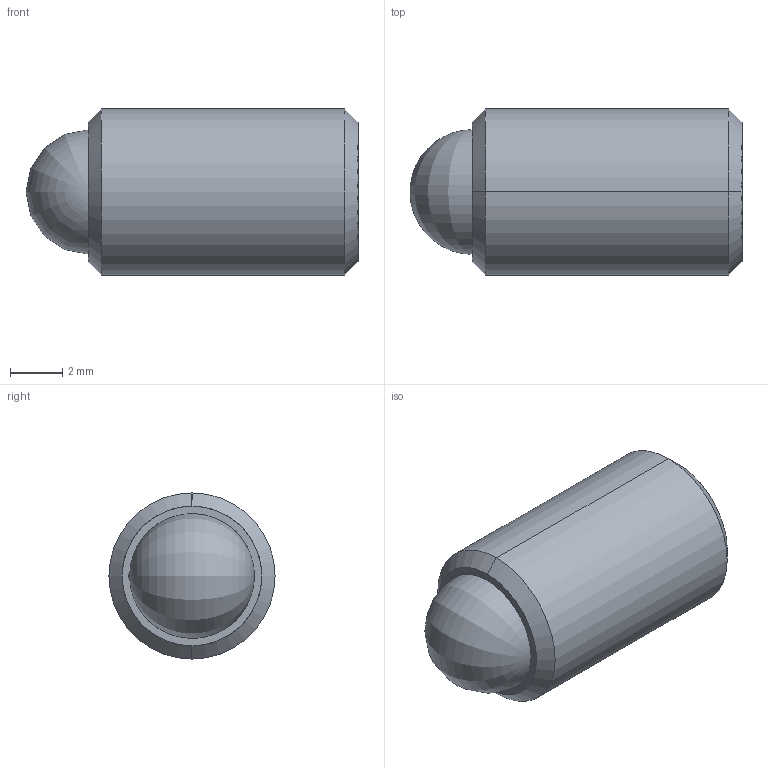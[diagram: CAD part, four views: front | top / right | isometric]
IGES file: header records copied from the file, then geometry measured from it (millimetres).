
Start section: SolidWorks IGES file using analytic representation for surfaces
Global section: file name: C:\Users\workpc\Desktop\KMA Solidworks\TS250-80 Series\TS250-80 High Vacuum\TS250-80 High Vacuum 3D Models\TS250-80-500-AA-HV.IGS; native system: SolidWorks 2013; preprocessor: SolidWorks 2013; author: workpc; date: 130510.103613; units: inch
Bounding box: 12.7 x 6.35 x 6.35 mm (x, y, z)
Surface area: 379.4 mm2 (no closed solid volume)
Topology: 0 solids, 0 shells, 24 faces, 240 edges, 236 vertices
Faces by surface type: revolution 14, bspline 10
